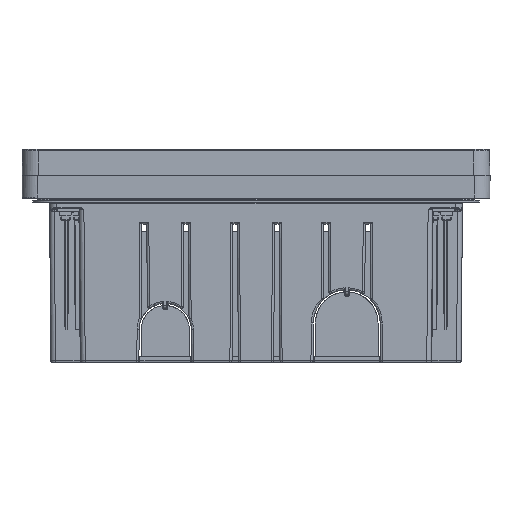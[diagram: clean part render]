
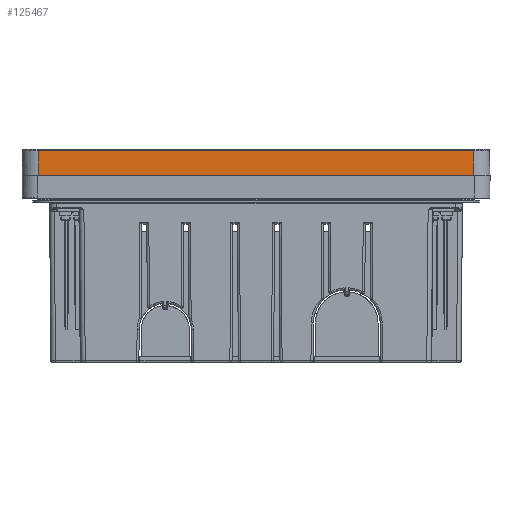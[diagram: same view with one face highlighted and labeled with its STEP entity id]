
A CAD part, left-side view. The second image highlights one B-rep face of the part: STEP entity #125467.
In plain terms, the highlighted planar face has unit normal (-1, 0, 0.009) as drawn and (-1, 0, -0.009) by its records, which use the part's own axes.
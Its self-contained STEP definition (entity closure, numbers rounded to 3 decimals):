
#3055 = EDGE_CURVE ( 'NONE', #17570, #39382, #5070, .T. ) ;
#5070 = LINE ( 'NONE', #47598, #127882 ) ;
#8215 = ORIENTED_EDGE ( 'NONE', *, *, #126043, .T. ) ;
#11636 = CARTESIAN_POINT ( 'NONE',  ( -155.382, -104.212, -0.067 ) ) ;
#12391 = VECTOR ( 'NONE', #152363, 1000. ) ;
#17570 = VERTEX_POINT ( 'NONE', #105965 ) ;
#17858 = VECTOR ( 'NONE', #66873, 1000. ) ;
#17884 = CARTESIAN_POINT ( 'NONE',  ( -155.674, 0., 33.4 ) ) ;
#19605 = DIRECTION ( 'NONE',  ( 0., -1., 0. ) ) ;
#22475 = VERTEX_POINT ( 'NONE', #138673 ) ;
#27915 = PLANE ( 'NONE',  #133567 ) ;
#31589 = ORIENTED_EDGE ( 'NONE', *, *, #128010, .F. ) ;
#39382 = VERTEX_POINT ( 'NONE', #109941 ) ;
#47598 = CARTESIAN_POINT ( 'NONE',  ( -155.579, 0., 22.5 ) ) ;
#53620 = EDGE_LOOP ( 'NONE', ( #61975, #146739, #31589, #8215 ) ) ;
#55480 = LINE ( 'NONE', #166835, #12391 ) ;
#61975 = ORIENTED_EDGE ( 'NONE', *, *, #3055, .F. ) ;
#66423 = CARTESIAN_POINT ( 'NONE',  ( -155.475, 104.306, 10.643 ) ) ;
#66873 = DIRECTION ( 'NONE',  ( -0.009, -0.009, 1. ) ) ;
#85714 = LINE ( 'NONE', #98412, #166668 ) ;
#89995 = EDGE_CURVE ( 'NONE', #99505, #17570, #85714, .T. ) ;
#98412 = CARTESIAN_POINT ( 'NONE',  ( -155.382, 104.212, -0.067 ) ) ;
#99505 = VERTEX_POINT ( 'NONE', #66423 ) ;
#100294 = DIRECTION ( 'NONE',  ( -1., 0., -0.009 ) ) ;
#105965 = CARTESIAN_POINT ( 'NONE',  ( -155.579, 104.409, 22.5 ) ) ;
#109941 = CARTESIAN_POINT ( 'NONE',  ( -155.579, -104.409, 22.5 ) ) ;
#110241 = DIRECTION ( 'NONE',  ( -0.009, 0.009, 1. ) ) ;
#125467 = ADVANCED_FACE ( 'NONE', ( #153741 ), #27915, .T. ) ;
#126043 = EDGE_CURVE ( 'NONE', #22475, #39382, #149287, .T. ) ;
#127882 = VECTOR ( 'NONE', #19605, 1000. ) ;
#128010 = EDGE_CURVE ( 'NONE', #22475, #99505, #55480, .T. ) ;
#133567 = AXIS2_PLACEMENT_3D ( 'NONE', #17884, #100294, #138381 ) ;
#138381 = DIRECTION ( 'NONE',  ( -0.009, 0., 1. ) ) ;
#138673 = CARTESIAN_POINT ( 'NONE',  ( -155.475, -104.306, 10.643 ) ) ;
#146739 = ORIENTED_EDGE ( 'NONE', *, *, #89995, .F. ) ;
#149287 = LINE ( 'NONE', #11636, #17858 ) ;
#152363 = DIRECTION ( 'NONE',  ( 0., 1., 0. ) ) ;
#153741 = FACE_OUTER_BOUND ( 'NONE', #53620, .T. ) ;
#166668 = VECTOR ( 'NONE', #110241, 1000. ) ;
#166835 = CARTESIAN_POINT ( 'NONE',  ( -155.475, 0., 10.643 ) ) ;
